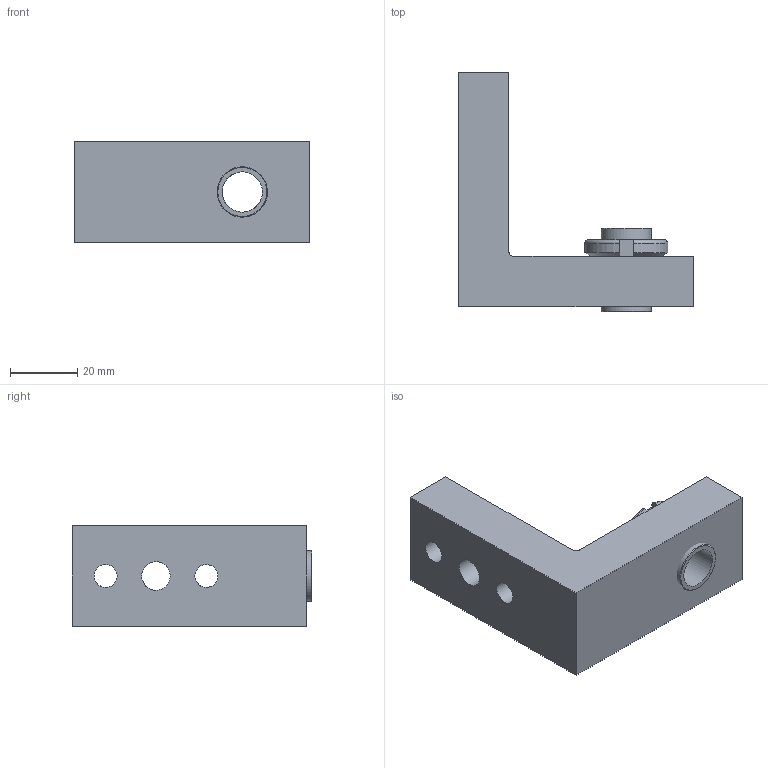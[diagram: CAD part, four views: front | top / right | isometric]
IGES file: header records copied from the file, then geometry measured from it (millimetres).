
Global section: file name: 03.07-G; native system: Autodesk Inventor 2014; preprocessor: unknown; author: APto/ms; date: 20150331.155058; units: millimetre
Bounding box: 70 x 71.5 x 30 mm (x, y, z)
Volume: 54926.9 mm3; surface area: 17250.7 mm2
Topology: 4 solids, 4 shells, 61 faces, 165 edges, 112 vertices
Faces by surface type: bspline 61
